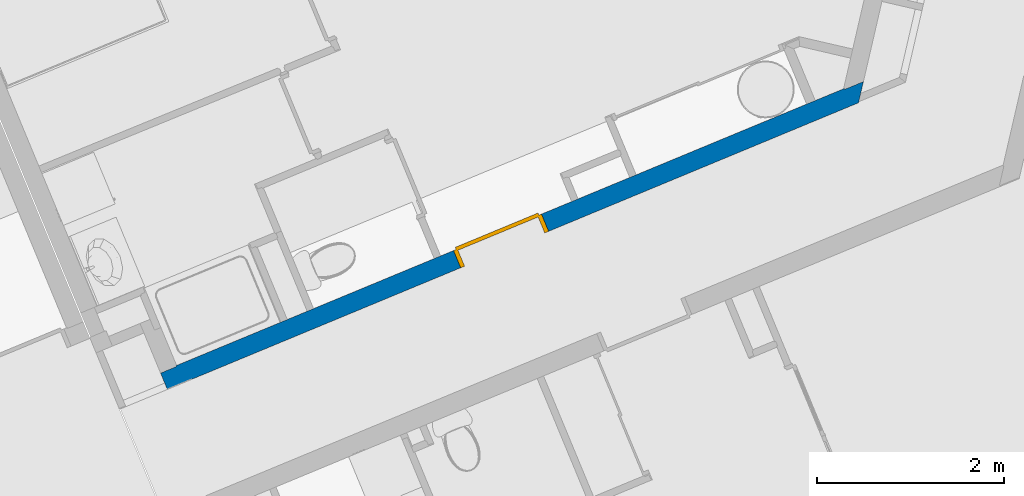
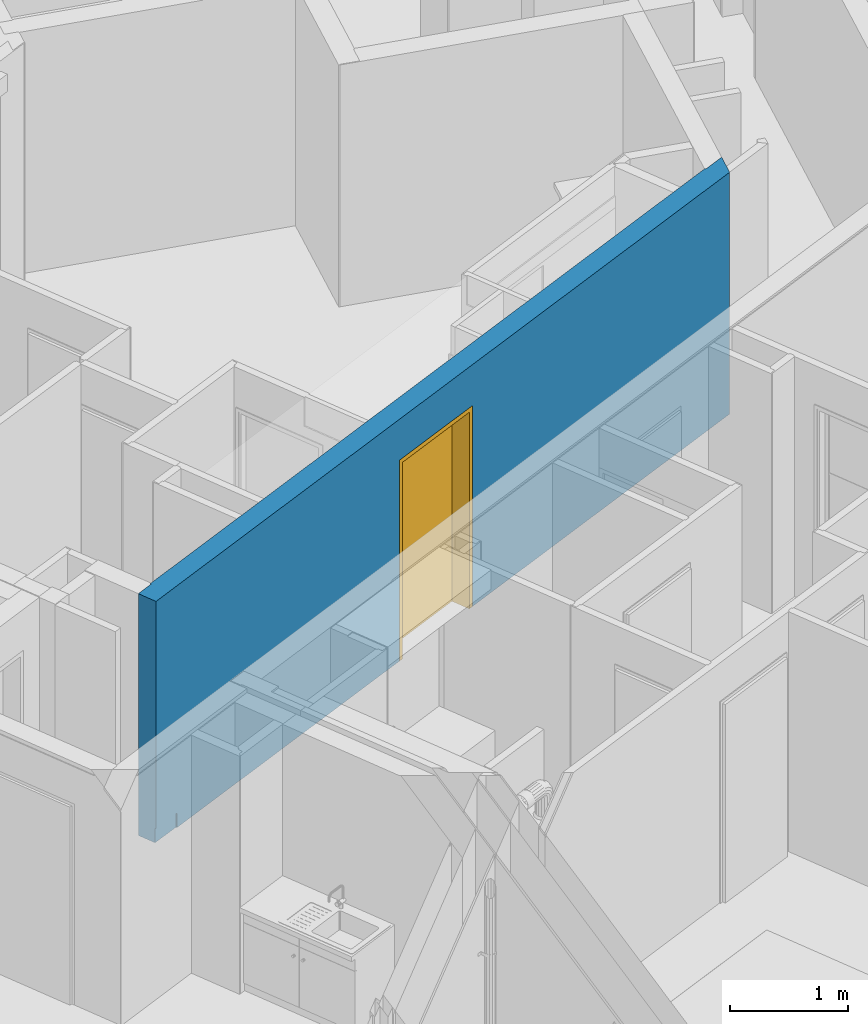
# One storey, part 12 of 90: 1 door, 1 wall, 1 opening.
"""IFC2X3 building model written with IfcOpenShell, lengths in metres."""

from ifc_helpers import new_model, entity, si_unit, converted_unit, derived_unit, money_unit, direction, frame, origin_with_axes, place, context, subcontext, project, spatial, faceted_brep, source, transform, mapped, material, material_list, type_object, element, fill, save


model = new_model("IFC2X3")

# Units and contexts
model_context = context("Model", 3, precision=1e-05, world=origin_with_axes(), true_north=direction((0.0, 1.0)))
body_context = subcontext(model_context, "Body", "Model", "MODEL_VIEW")
ifc_project = project(units=[si_unit("LENGTHUNIT", "METRE"), si_unit("AREAUNIT", "SQUARE_METRE"), si_unit("VOLUMEUNIT", "CUBIC_METRE"), converted_unit("PLANEANGLEUNIT", "DEGREE", entity("IfcPlaneAngleMeasure", 0.0174532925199), si_unit("PLANEANGLEUNIT", "RADIAN"), dimensions=[0, 0, 0, 0, 0, 0, 0]), si_unit("SOLIDANGLEUNIT", "STERADIAN"), money_unit("EUR"), converted_unit("TIMEUNIT", "Year", entity("IfcTimeMeasure", 31556926.0), si_unit("TIMEUNIT", "SECOND"), dimensions=[0, 0, 1, 0, 0, 0, 0]), si_unit("MASSUNIT", "GRAM", prefix="KILO"), si_unit("THERMODYNAMICTEMPERATUREUNIT", "DEGREE_CELSIUS"), si_unit("LUMINOUSINTENSITYUNIT", "LUMEN"), si_unit("ENERGYUNIT", "JOULE", prefix="MEGA"), derived_unit("THERMALCONDUCTANCEUNIT", [(si_unit("POWERUNIT", "WATT"), 1), (si_unit("LENGTHUNIT", "METRE"), -1), (si_unit("THERMODYNAMICTEMPERATUREUNIT", "KELVIN"), -1)]), derived_unit("SPECIFICHEATCAPACITYUNIT", [(si_unit("ENERGYUNIT", "JOULE"), 1), (si_unit("MASSUNIT", "GRAM", prefix="KILO"), -1), (si_unit("THERMODYNAMICTEMPERATUREUNIT", "KELVIN"), -1)]), derived_unit("MASSDENSITYUNIT", [(si_unit("MASSUNIT", "GRAM", prefix="KILO"), 1), (si_unit("VOLUMEUNIT", "CUBIC_METRE"), -1)])], contexts=[model_context])

# Site, building, storey
site_placement = place(None, origin_with_axes())
site = spatial("IfcSite", under=ifc_project, at=site_placement, Name="Site", CompositionType="ELEMENT")
building_placement = place(site_placement, origin_with_axes())
building = spatial("IfcBuilding", under=site, at=building_placement, Name="Bâtiment", CompositionType="ELEMENT")
storey_placement = place(building_placement, frame((0.0, 0.0, 2.72), z_axis=(0.0, 0.0, 1.0), x_axis=(1.0, 0.0, 0.0)))
storey = spatial("IfcBuildingStorey", under=building, at=storey_placement, Name="R+1", CompositionType="ELEMENT", Elevation=2.72)

# Wall, opening, door
ifc_material_1 = material(Name="Finition int - Enduit plâtre")
ifc_material_2 = material(Name="Béton")
ifc_material_list = material_list([ifc_material_1, ifc_material_2, ifc_material_1])
wall_type = type_object("IfcWallType", Name="2 - Murs Béton 18 + Enduit 2 Faces 200", PredefinedType="USERDEFINED")
wall_placement = place(storey_placement, frame((-22.6606031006, -20.7304905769, 0.0), z_axis=(0.0, 0.0, 1.0), x_axis=(0.923701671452, 0.383112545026, 0.0)))
wall = element("IfcWall", 1, at=wall_placement, inside=storey, type_object=wall_type, material=ifc_material_list, Name="M_Ext-008", ObjectType="SOLIDWALL", context=body_context, shape_type="Brep", body=[
    faceted_brep([(3.40263340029, 0.18, 0.0), (3.40263340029, 0.18, 2.085), (4.42263340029, 0.18, 2.085), (4.42263340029, 0.18, 0.0), (7.93203782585, 0.18, 0.0), (7.93203782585, 0.18, 2.51), (0.180000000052, 0.18, 2.51), (0.180000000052, 0.18, 0.0), (3.40263340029, 0.19, 0.0), (3.40263340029, 0.19, 2.085), (4.42263340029, 0.19, 2.085), (4.42263340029, 0.19, 0.0), (7.93917660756, 0.19, 0.0), (7.93917660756, 0.19, 2.51), (0.180000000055, 0.19, 2.51), (0.180000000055, 0.19, 0.0)], [[[0, 1, 2, 3, 4, 5, 6, 7]], [[1, 0, 8, 9]], [[2, 1, 9, 10]], [[3, 2, 10, 11]], [[3, 11, 12, 4]], [[13, 5, 4, 12]], [[14, 6, 5, 13]], [[15, 7, 6, 14]], [[8, 0, 7, 15]], [[9, 8, 15, 14, 13, 12, 11, 10]]]),
    faceted_brep([(3.40263340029, 0.0, 0.0), (3.40263340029, 0.0, 2.085), (4.42263340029, 0.0, 2.085), (4.42263340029, 0.0, 0.0), (8.02469978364, 0.0, 0.0), (8.02469977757, 4.32893010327e-09, 2.5), (8.02469977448, 0.0, 2.5099999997), (0.0, 0.0, 2.51), (0.0, 0.0, 0.150000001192), (0.0, 0.0, 0.0), (3.40263340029, 0.18, 0.0), (3.40263340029, 0.180000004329, 2.085), (4.42263340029, 0.180000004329, 2.085), (4.42263340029, 0.18, 0.0), (8.15319785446, 0.18, 0.0), (8.1531978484, 0.180000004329, 2.5), (8.15319784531, 0.18, 2.5099999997), (0.0, 0.18, 2.51), (0.0, 0.18, 0.150000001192), (0.0, 0.18, 0.0)], [[[0, 1, 2, 3, 4, 5, 6, 7, 8, 9]], [[1, 0, 10, 11]], [[2, 1, 11, 12]], [[3, 2, 12, 13]], [[3, 13, 14, 4]], [[14, 15, 5, 4]], [[5, 15, 16, 6]], [[16, 17, 7, 6]], [[17, 18, 8, 7]], [[19, 9, 8, 18]], [[10, 0, 9, 19]], [[11, 10, 19, 18, 17, 16, 15, 14, 13, 12]]]),
    faceted_brep([(3.40263340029, -0.00999999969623, 0.0), (3.40263340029, -0.00999999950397, 2.085), (4.42263340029, -0.00999999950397, 2.085), (4.42263340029, -0.00999999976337, 0.0), (8.01756100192, -0.01, 0.0), (8.01756099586, -0.00999999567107, 2.5), (8.01756099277, -0.01, 2.5099999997), (0.0, -0.01, 2.51), (0.0, -0.00999999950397, 0.15), (0.290000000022, -0.00999999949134, 0.15), (0.290000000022, -0.00999999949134, 0.0), (3.40263340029, 0.0, 0.0), (3.40263340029, 0.0, 2.085), (4.42263340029, 0.0, 2.085), (4.42263340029, 0.0, 0.0), (8.02469978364, 0.0, 0.0), (8.02469977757, 4.32893010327e-09, 2.5), (8.02469977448, 0.0, 2.5099999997), (0.0, 0.0, 2.51), (0.0, 0.0, 0.15), (0.290000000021, 0.0, 0.15), (0.290000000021, 0.0, 0.0)], [[[0, 1, 2, 3, 4, 5, 6, 7, 8, 9, 10]], [[1, 0, 11, 12]], [[2, 1, 12, 13]], [[3, 2, 13, 14]], [[3, 14, 15, 4]], [[15, 16, 5, 4]], [[5, 16, 17, 6]], [[17, 18, 7, 6]], [[19, 8, 7, 18]], [[9, 8, 19, 20]], [[10, 9, 20, 21]], [[11, 0, 10, 21]], [[12, 11, 21, 20, 19, 18, 17, 16, 15, 14, 13]]]),
])
opening_placement = place(wall_placement, frame((3.91263340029, 0.0, 0.0), z_axis=(0.0, 0.0, 1.0), x_axis=(1.0, 0.0, 0.0)))
opening = element("IfcOpeningElement", 2, at=opening_placement, cuts=wall, Name="Porte 93x204 bois blindée", context=body_context, shape_type="Brep", body=[
    faceted_brep([(-0.51, 0.2, 0.0), (0.51, 0.2, 0.0), (0.51, -0.2, 0.0), (-0.51, -0.2, 0.0), (-0.51, 0.2, 2.085), (0.51, 0.2, 2.085), (0.51, -0.2, 2.085), (-0.51, -0.2, 2.085)], [[[0, 1, 2, 3]], [[0, 4, 5, 1]], [[1, 5, 6, 2]], [[3, 2, 6, 7]], [[4, 0, 3, 7]], [[5, 4, 7, 6]]]),
])
door_style = type_object("IfcDoorStyle", Name="Porte int générique 2019", ConstructionType="NOTDEFINED", OperationType="SINGLE_SWING_LEFT", ParameterTakesPrecedence=False, Sizeable=False)
shared_shape = source(origin_with_axes(), body_context, "Body", "Brep", [
    faceted_brep([(-0.51, 0.0, 0.0), (-0.51, 0.0, 2.085), (0.51, 0.0, 2.085), (0.51, 0.0, 0.0), (0.48, 0.0, 0.0), (0.48, 0.0, 2.055), (-0.48, 0.0, 2.055), (-0.48, 0.0, 0.0), (-0.51, -0.2, 0.0), (-0.51, -0.2, 2.085), (0.51, -0.2, 2.085), (0.51, -0.2, 0.0), (0.465, -0.2, 0.0), (0.465, -0.015, 0.0), (0.48, -0.015, 0.0), (0.48, -0.015, 2.055), (-0.48, -0.015, 2.055), (-0.48, -0.015, 0.0), (-0.465, -0.015, 0.0), (-0.465, -0.2, 0.0), (-0.465, -0.2, 2.04), (0.465, -0.2, 2.04), (0.465, -0.015, 2.04), (-0.465, -0.015, 2.04)], [[[0, 1, 2, 3, 4, 5, 6, 7]], [[8, 9, 1, 0]], [[9, 10, 2, 1]], [[10, 11, 3, 2]], [[3, 11, 12, 13, 14, 4]], [[5, 4, 14, 15]], [[6, 5, 15, 16]], [[7, 6, 16, 17]], [[0, 7, 17, 18, 19, 8]], [[19, 20, 21, 12, 11, 10, 9, 8]], [[22, 13, 12, 21]], [[17, 16, 15, 14, 13, 22, 23, 18]], [[18, 23, 20, 19]], [[23, 22, 21, 20]]]),
    faceted_brep([(-0.48, 0.025, 0.0), (0.48, 0.025, 0.0), (0.48, -0.015, 0.0), (-0.48, -0.015, 0.0), (-0.48, 0.025, 2.055), (0.48, 0.025, 2.055), (0.48, -0.015, 2.055), (-0.48, -0.015, 2.055)], [[[0, 1, 2, 3]], [[0, 4, 5, 1]], [[1, 5, 6, 2]], [[3, 2, 6, 7]], [[4, 0, 3, 7]], [[5, 4, 7, 6]]]),
])
door_placement = place(opening_placement, frame((-0.465, 0.0, 0.0), z_axis=(0.0, 0.0, 1.0), x_axis=(1.0, 0.0, 0.0)))
door = element("IfcDoor", 3, at=door_placement, inside=storey, type_object=door_style, Name="Porte 93x204 bois blindée", ObjectType="DOOR", OverallHeight=2.04, OverallWidth=0.93, context=body_context, shape_type="MappedRepresentation", body=[
    mapped(shared_shape, transform((0.465, 0.19, 0.0))),
])
fill(opening, door)

save(model, "model.ifc")
